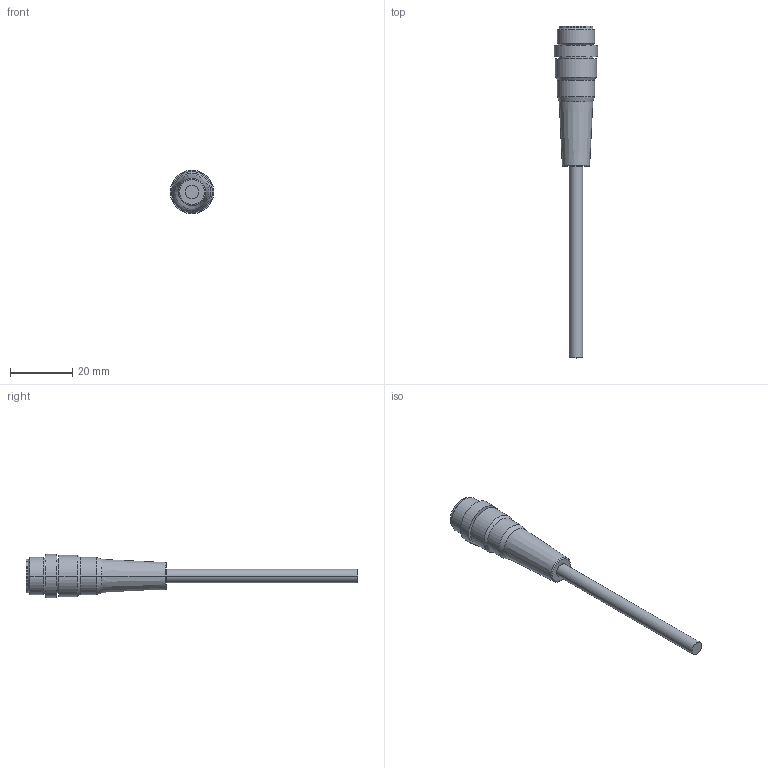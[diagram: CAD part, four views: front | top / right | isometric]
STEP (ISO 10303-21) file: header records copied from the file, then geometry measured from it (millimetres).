
FILE_DESCRIPTION(('CoCreate Modeling STEP Export'),'2;1');
FILE_NAME('DOL-1205-GxxM-R.stp','2022-10-05T13:57:36',(''),(''),'CoCreate Modeling STEP processor for AP214 (Solid Model)','CoCreate Modeling 16.50A 01-Dec-2009 (C) Parametric Technology GmbH','');
FILE_SCHEMA(('AUTOMOTIVE_DESIGN { 1 0 10303 214 1 1 1 1 }'));
Length unit declared in the file: millimetre
Products named in the file (1): DOL-1205-G
Bounding box: 14 x 106.53 x 14 mm (x, y, z)
Volume: 5509.1 mm3; surface area: 2795.6 mm2
Topology: 1 solids, 1 shells, 32 faces, 62 edges, 36 vertices
Faces by surface type: cylinder 14, cone 10, plane 6, torus 2
Entity records: 683 total; most frequent: ORIENTED_EDGE 124, DIRECTION 104, CARTESIAN_POINT 100, EDGE_CURVE 62, AXIS2_PLACEMENT_3D 40, VERTEX_POINT 36, EDGE_LOOP 36, FACE_OUTER_BOUND 32
